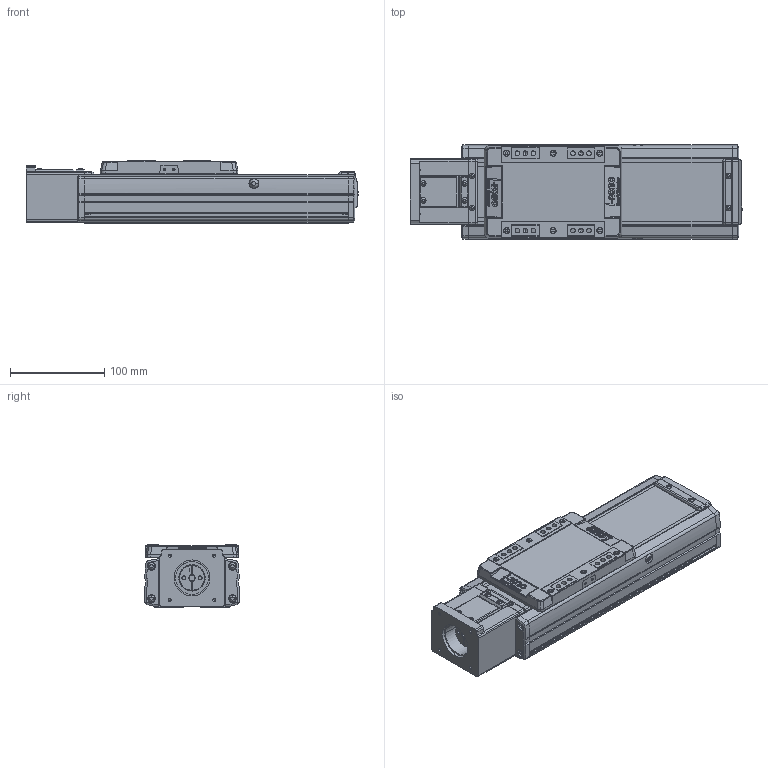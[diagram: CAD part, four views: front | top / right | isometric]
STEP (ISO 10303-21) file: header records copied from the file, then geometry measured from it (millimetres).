
FILE_DESCRIPTION(('STEP AP214'),'1');
FILE_NAME('Z:/Web/3D/SAN100/SAN100 양산용 (STEP)/SAN100ㅁㅁ-100S.stp','2013-04-24T06:06:02',(' '),(' '),'Spatial InterOp 3D',' ',' ');
FILE_SCHEMA(('automotive_design'));
Length unit declared in the file: millimetre
Products named in the file (46): 너트 : Square - M10.0 x 220.7419; RR1500-000L; 스크루 : Round - M4.0 x 10.0; FRCV-SAN100; SUS COVER; SFX-SAN100; RRCV-SAN100; M3.0 x 6.0; 스크루 : Round - M3.0 x 6.0; FRBL-SAN100; SLBL-SAN100; SLCV-SAN100; 스크루 : Countersunk - M3.0 x 6.0; BASE; 스크루 : Round - M5.0 x 6.0; MTHZ-SAN100-S56A; SDA26C-8-6.35; SSFX-SAN65; CPLCV-SAN65
Bounding box: 352.5 x 100 x 66 mm (x, y, z)
Volume: 1142597.9 mm3; surface area: 318181.8 mm2
Topology: 46 solids, 47 shells, 2495 faces, 6536 edges, 4227 vertices
Faces by surface type: plane 1202, cylinder 931, cone 233, sphere 56, torus 53, bspline 20
Entity records: 99874 total; most frequent: CARTESIAN_POINT 15866, DIRECTION 13864, ORIENTED_EDGE 12924, EDGE_CURVE 6462, AXIS2_PLACEMENT_3D 5076, VERTEX_POINT 4227, LINE 3712, VECTOR 3712
